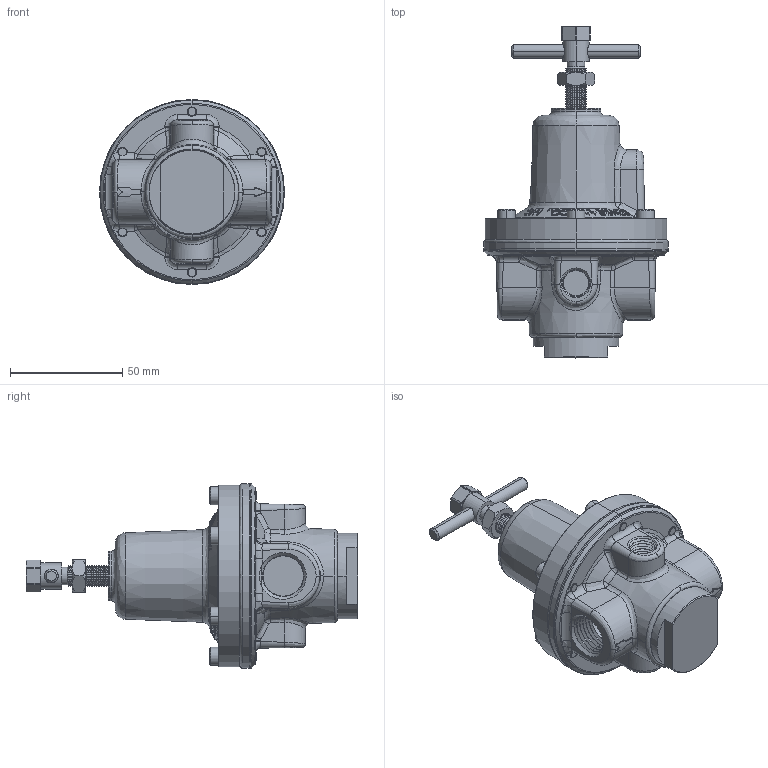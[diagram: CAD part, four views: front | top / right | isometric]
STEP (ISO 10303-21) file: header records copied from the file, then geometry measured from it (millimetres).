
FILE_DESCRIPTION (( 'STEP AP203' ), '1' );
FILE_NAME ('4GDR-4BSPT.STEP', '2013-03-14T15:16:08', ( '' ), ( '' ), 'SwSTEP 2.0', 'SolidWorks 2011', '' );
FILE_SCHEMA (( 'CONFIG_CONTROL_DESIGN' ));
Length unit declared in the file: inch
Products named in the file (2): 4GDR-4BSPT; Part1^4GDR-500B_CM
Assembly tree (1 placements, depth 2):
  4GDR-4BSPT
    Part1^4GDR-500B_CM
Bounding box: 82.3 x 147.64 x 82.3 mm (x, y, z)
Volume: 237882.3 mm3; surface area: 36493.6 mm2
Topology: 1 solids, 6 shells, 1142 faces, 2876 edges, 1781 vertices
Faces by surface type: cone 393, plane 314, bspline 268, cylinder 167
Entity records: 46663 total; most frequent: CARTESIAN_POINT 21142, ORIENTED_EDGE 5728, DIRECTION 4738, EDGE_CURVE 2864, AXIS2_PLACEMENT_3D 1875, VERTEX_POINT 1781, EDGE_LOOP 1199, FACE_OUTER_BOUND 1142
